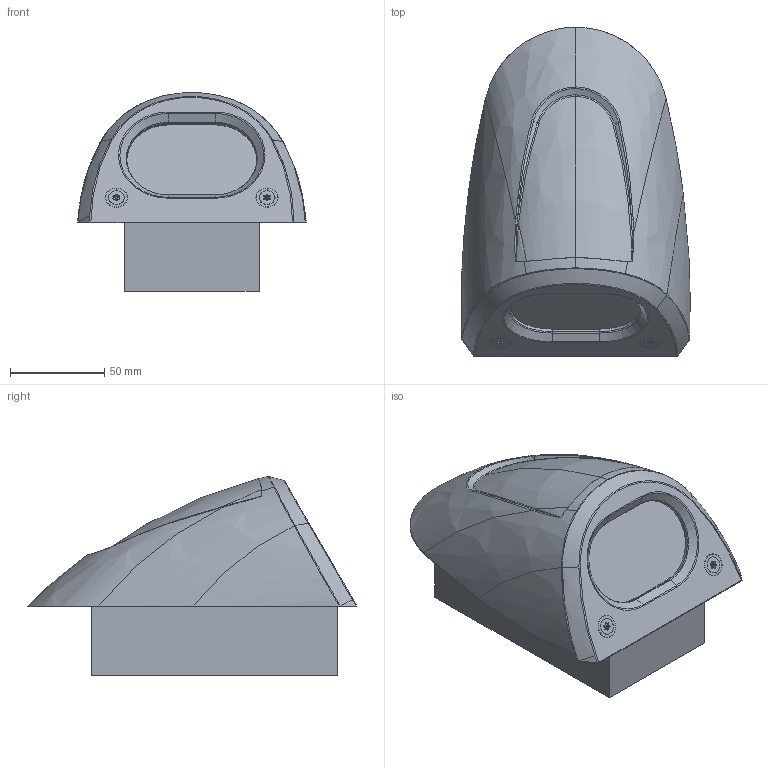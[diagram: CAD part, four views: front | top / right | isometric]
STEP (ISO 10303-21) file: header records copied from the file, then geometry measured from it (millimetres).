
FILE_DESCRIPTION (( 'STEP AP214' ), '1' );
FILE_NAME ('Fynn 120mm Wide Wall Light.STEP', '2024-08-30T15:03:30', ( '' ), ( '' ), 'SwSTEP 2.0', 'SolidWorks 2023', '' );
FILE_SCHEMA (( 'AUTOMOTIVE_DESIGN' ));
Length unit declared in the file: millimetre
Products named in the file (6): Simple Back Box; Fynn Wall Light - Insulating Grommet; Fynn 120mm Wide Wall Light; Fynn Wall Light - Front Screw M4x12mm Security; Simple Back Plate; Simple Outer Casing
Assembly tree (7 placements, depth 2):
  Fynn 120mm Wide Wall Light
    Simple Back Plate
    Simple Outer Casing
    Fynn Wall Light - Insulating Grommet  x2
    Fynn Wall Light - Front Screw M4x12mm Security  x2
    Simple Back Box
Bounding box: 121.3 x 175 x 105.67 mm (x, y, z)
Volume: 933853 mm3; surface area: 103036.2 mm2
Topology: 2 solids, 7 shells, 268 faces, 688 edges, 439 vertices
Faces by surface type: cylinder 129, bspline 72, plane 33, cone 20, torus 14
Full cylindrical faces by diameter (mm): 2.5 x2, 4 x2, 4.5 x2, 6.6 x2, 10.5 x1
Entity records: 14512 total; most frequent: CARTESIAN_POINT 10307, ORIENTED_EDGE 936, DIRECTION 652, EDGE_CURVE 478, VERTEX_POINT 310, AXIS2_PLACEMENT_3D 270, B_SPLINE_CURVE_WITH_KNOTS 235, EDGE_LOOP 218
